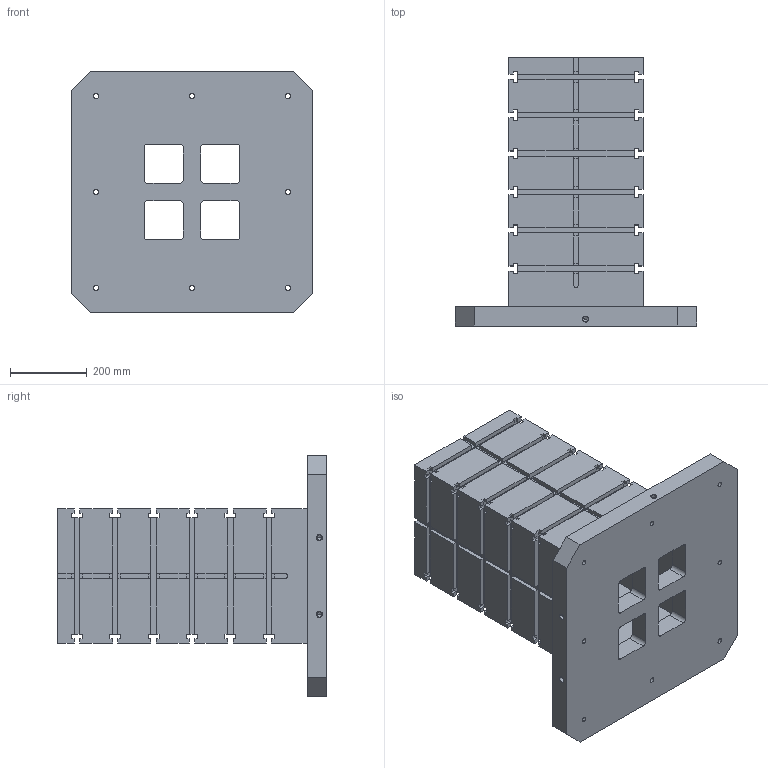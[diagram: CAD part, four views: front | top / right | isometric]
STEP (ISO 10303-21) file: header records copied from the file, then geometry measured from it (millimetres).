
FILE_DESCRIPTION((''),'2;1');
FILE_NAME('FG_WH_TOMB_SQTSLNP004','2026-05-19T16:49:49',('Admin'),(''),'CREO PARAMETRIC BY PTC INC, 2025010','CREO PARAMETRIC BY PTC INC, 2025010','');
FILE_SCHEMA(('CONFIG_CONTROL_DESIGN'));
Length unit declared in the file: millimetre
Products named in the file (1): FG_WH_TOMB_SQTSLNP004
Bounding box: 630 x 700 x 630 mm (x, y, z)
Volume: 47972927.1 mm3; surface area: 3297858.6 mm2
Topology: 1 solids, 4 shells, 688 faces, 1968 edges, 1309 vertices
Faces by surface type: plane 596, cylinder 86, cone 6
Entity records: 22218 total; most frequent: CARTESIAN_POINT 3960, ORIENTED_EDGE 3912, DIRECTION 3518, EDGE_CURVE 1962, VECTOR 1784, LINE 1784, VERTEX_POINT 1309, AXIS2_PLACEMENT_3D 867
